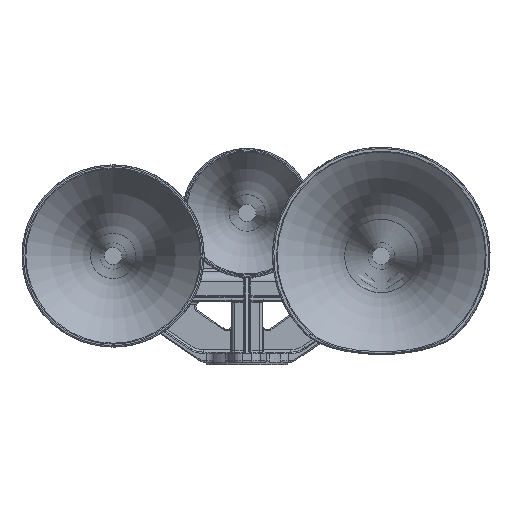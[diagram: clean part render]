
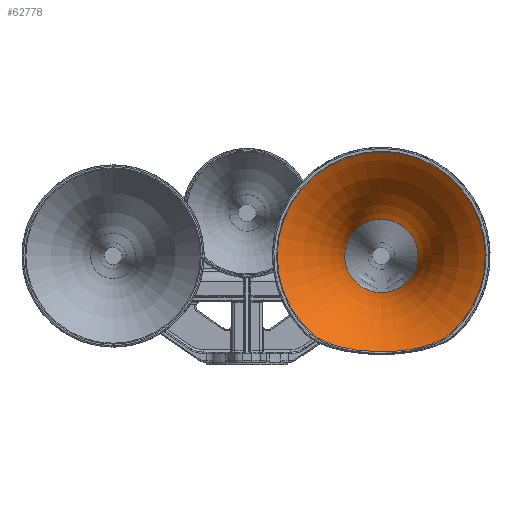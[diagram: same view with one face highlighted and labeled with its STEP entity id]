
A CAD part, front view. The second image highlights one B-rep face of the part: STEP entity #62778.
In plain terms, the highlighted toroidal (fillet/blend) face has major radius 254.72 mm and minor radius 211.137 mm.
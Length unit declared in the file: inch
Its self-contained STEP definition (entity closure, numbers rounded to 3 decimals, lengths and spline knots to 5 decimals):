
#741=TOROIDAL_SURFACE('',#67015,10.02836,8.3125);
#2917=B_SPLINE_CURVE_WITH_KNOTS('',3,(#119649,#119650,#119651,#119652,#119653,
#119654,#119655,#119656,#119657),.UNSPECIFIED.,.F.,.F.,(4,1,1,1,1,1,4),
(0.,0.65883,1.31765,2.63531,5.27061,
7.90592,9.22355),.UNSPECIFIED.);
#2918=B_SPLINE_CURVE_WITH_KNOTS('',3,(#119658,#119659,#119660,#119661,#119662,
#119663,#119664,#119665,#119666),.UNSPECIFIED.,.F.,.F.,(4,1,1,1,1,1,4),
(9.22355,10.54123,13.17654,15.81184,17.1295,
17.78832,18.44715),.UNSPECIFIED.);
#8401=FACE_OUTER_BOUND('',#12279,.T.);
#12279=EDGE_LOOP('',(#49860,#49861,#49862,#49863,#49864,#49865));
#23349=CIRCLE('',#66998,5.14195);
#23363=CIRCLE('',#67016,8.3125);
#23364=CIRCLE('',#67017,1.8125);
#28147=VERTEX_POINT('',#119557);
#28148=VERTEX_POINT('',#119559);
#28150=VERTEX_POINT('',#119648);
#28187=VERTEX_POINT('',#122758);
#35746=EDGE_CURVE('',#28147,#28148,#23349,.T.);
#35750=EDGE_CURVE('',#28148,#28150,#2917,.T.);
#35751=EDGE_CURVE('',#28150,#28147,#2918,.T.);
#35806=EDGE_CURVE('',#28150,#28187,#23363,.T.);
#35807=EDGE_CURVE('',#28187,#28187,#23364,.T.);
#49860=ORIENTED_EDGE('',*,*,#35746,.F.);
#49861=ORIENTED_EDGE('',*,*,#35751,.F.);
#49862=ORIENTED_EDGE('',*,*,#35806,.T.);
#49863=ORIENTED_EDGE('',*,*,#35807,.T.);
#49864=ORIENTED_EDGE('',*,*,#35806,.F.);
#49865=ORIENTED_EDGE('',*,*,#35750,.F.);
#62778=ADVANCED_FACE('',(#8401),#741,.T.);
#66998=AXIS2_PLACEMENT_3D('',#119560,#76534,#76535);
#67015=AXIS2_PLACEMENT_3D('',#122757,#76572,#76573);
#67016=AXIS2_PLACEMENT_3D('',#122759,#76574,#76575);
#67017=AXIS2_PLACEMENT_3D('',#122760,#76576,#76577);
#76534=DIRECTION('center_axis',(0.,1.,0.));
#76535=DIRECTION('ref_axis',(0.,0.,1.));
#76572=DIRECTION('center_axis',(0.,1.,0.));
#76573=DIRECTION('ref_axis',(0.,0.,1.));
#76574=DIRECTION('center_axis',(-1.,0.,0.));
#76575=DIRECTION('ref_axis',(0.,0.,-1.));
#76576=DIRECTION('center_axis',(0.,1.,0.));
#76577=DIRECTION('ref_axis',(1.,0.,0.));
#119557=CARTESIAN_POINT('',(-3.41121,-22.45681,-3.84751));
#119559=CARTESIAN_POINT('',(3.41121,-22.45681,-3.84751));
#119560=CARTESIAN_POINT('Origin',(0.,-22.45681,0.));
#119648=CARTESIAN_POINT('',(0.,-22.13972,-4.73294));
#119649=CARTESIAN_POINT('Ctrl Pts',(3.41121,-22.45681,
-3.84751));
#119650=CARTESIAN_POINT('Ctrl Pts',(3.34698,-22.45681,
-3.90446));
#119651=CARTESIAN_POINT('Ctrl Pts',(3.20962,-22.45004,
-4.00799));
#119652=CARTESIAN_POINT('Ctrl Pts',(2.91448,-22.42075,
-4.18217));
#119653=CARTESIAN_POINT('Ctrl Pts',(2.36481,-22.34576,-4.41804));
#119654=CARTESIAN_POINT('Ctrl Pts',(1.53701,-22.22639,
-4.62478));
#119655=CARTESIAN_POINT('Ctrl Pts',(0.686,-22.15098,
-4.7188));
#119656=CARTESIAN_POINT('Ctrl Pts',(0.1715,-22.13973,
-4.73295));
#119657=CARTESIAN_POINT('Ctrl Pts',(0.,-22.13975,
-4.73296));
#119658=CARTESIAN_POINT('Ctrl Pts',(0.,-22.13975,
-4.73296));
#119659=CARTESIAN_POINT('Ctrl Pts',(-0.1715,-22.13976,
-4.73297));
#119660=CARTESIAN_POINT('Ctrl Pts',(-0.686,-22.15109,
-4.71887));
#119661=CARTESIAN_POINT('Ctrl Pts',(-1.53688,-22.22621,
-4.62455));
#119662=CARTESIAN_POINT('Ctrl Pts',(-2.36506,-22.34588,
-4.41813));
#119663=CARTESIAN_POINT('Ctrl Pts',(-2.91438,-22.42075,
-4.18224));
#119664=CARTESIAN_POINT('Ctrl Pts',(-3.20963,-22.45005,
-4.00801));
#119665=CARTESIAN_POINT('Ctrl Pts',(-3.34698,-22.45681,
-3.90446));
#119666=CARTESIAN_POINT('Ctrl Pts',(-3.41121,-22.45681,
-3.84751));
#122757=CARTESIAN_POINT('Origin',(0.,-15.73218,0.));
#122758=CARTESIAN_POINT('',(0.,-16.99601,-1.8125));
#122759=CARTESIAN_POINT('Origin',(0.,-15.73218,
-10.02836));
#122760=CARTESIAN_POINT('Origin',(0.,-16.99601,0.));
